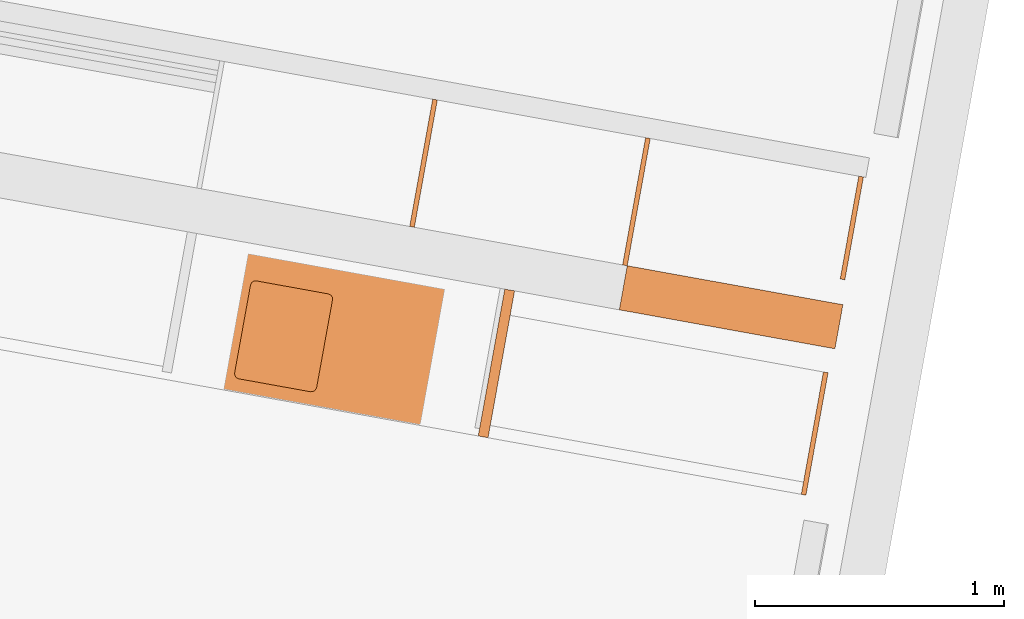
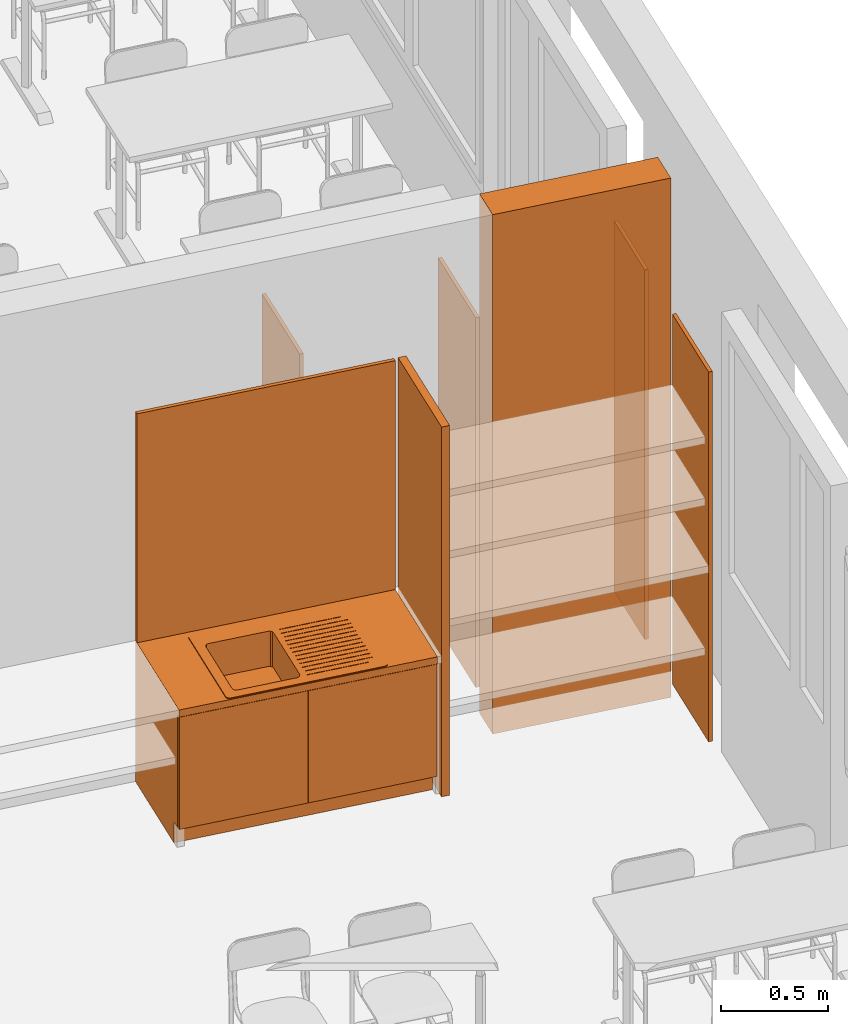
# One storey, part 45 of 79: 7 proxies.
"""IFC2X3 building model written with IfcOpenShell, lengths in metres."""

from ifc_helpers import new_model, entity, si_unit, converted_unit, derived_unit, money_unit, direction, frame, origin_with_axes, place, context, subcontext, project, spatial, polyline, outline, extrude, open_shell, faceted_brep, surface_model, source, transform, mapped, material, type_object, element, save


model = new_model("IFC2X3")

# Units and contexts
model_context = context("Model", 3, precision=1e-05, world=origin_with_axes(), true_north=direction((0.0, 1.0)))
body_context = subcontext(model_context, "Body", "Model", "MODEL_VIEW")
ifc_project = project(units=[si_unit("LENGTHUNIT", "METRE"), si_unit("AREAUNIT", "SQUARE_METRE"), si_unit("VOLUMEUNIT", "CUBIC_METRE"), converted_unit("PLANEANGLEUNIT", "DEGREE", entity("IfcPlaneAngleMeasure", 0.0174532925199), si_unit("PLANEANGLEUNIT", "RADIAN"), dimensions=[0, 0, 0, 0, 0, 0, 0]), money_unit("CHF"), converted_unit("TIMEUNIT", "Year", entity("IfcTimeMeasure", 31556926.0), si_unit("TIMEUNIT", "SECOND"), dimensions=[0, 0, 1, 0, 0, 0, 0]), si_unit("MASSUNIT", "GRAM", prefix="KILO"), si_unit("THERMODYNAMICTEMPERATUREUNIT", "DEGREE_CELSIUS"), si_unit("LUMINOUSINTENSITYUNIT", "LUMEN"), si_unit("ENERGYUNIT", "JOULE", prefix="MEGA"), derived_unit("THERMALCONDUCTANCEUNIT", [(si_unit("POWERUNIT", "WATT"), 1), (si_unit("LENGTHUNIT", "METRE"), -1), (si_unit("THERMODYNAMICTEMPERATUREUNIT", "KELVIN"), -1)]), derived_unit("SPECIFICHEATCAPACITYUNIT", [(si_unit("ENERGYUNIT", "JOULE"), 1), (si_unit("MASSUNIT", "GRAM", prefix="KILO"), -1), (si_unit("THERMODYNAMICTEMPERATUREUNIT", "KELVIN"), -1)]), derived_unit("MASSDENSITYUNIT", [(si_unit("MASSUNIT", "GRAM", prefix="KILO"), 1), (si_unit("VOLUMEUNIT", "CUBIC_METRE"), -1)])], contexts=[model_context])

# Site, building, storey
site_placement = place(None, frame((0.0, 0.0, 0.0), z_axis=(0.0, 0.0, 1.0), x_axis=(-0.177771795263, -0.984071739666, 0.0)))
site = spatial("IfcSite", under=ifc_project, at=site_placement, Name="Site", CompositionType="ELEMENT")
building_placement = place(site_placement, origin_with_axes())
building = spatial("IfcBuilding", under=site, at=building_placement, Name="Bâtiment", CompositionType="ELEMENT")
storey_placement = place(building_placement, origin_with_axes())
storey = spatial("IfcBuildingStorey", under=building, at=storey_placement, Name="RDC", CompositionType="ELEMENT", Elevation=0.0)

# Proxies
ifc_material_1 = material(Name="_panneau mélaminé")
building_element_proxy_type_1 = type_object("IfcBuildingElementProxyType", Name="_panneau mélaminé 40", PredefinedType="NOTDEFINED")
proxy_1_placement = place(storey_placement, frame((119.884841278, -149.826151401, 0.0), z_axis=(0.0, 0.0, 1.0), x_axis=(-1.0, 0.0, 0.0)))
element("IfcBuildingElementProxy", 1, at=proxy_1_placement, inside=storey, type_object=building_element_proxy_type_1, material=ifc_material_1, Name="cloison-fd-classe D", context=body_context, shape_type="SweptSolid", body=[
    extrude(outline(polyline([(0.0, -0.04), (0.600000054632, -0.04), (0.600000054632, 0.0), (0.0, 0.0), (0.0, -0.04)])), origin_with_axes(), (0.0, 0.0, 1.0), 2.1),
])
building_element_proxy_type_2 = type_object("IfcBuildingElementProxyType", Name="_panneau mélaminé 19", PredefinedType="NOTDEFINED")
proxy_2_placement = place(storey_placement, frame((119.10484124, -149.367651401, 0.0), z_axis=(0.0, 0.0, 1.0), x_axis=(-1.0, 0.0, 0.0)))
element("IfcBuildingElementProxy", 2, at=proxy_2_placement, inside=storey, type_object=building_element_proxy_type_2, material=ifc_material_1, Name="cloison pl-classe", context=body_context, shape_type="SweptSolid", body=[
    extrude(outline(polyline([(0.0, -0.0095), (0.520000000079, -0.0095), (0.520000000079, 0.0095), (0.0, 0.0095), (0.0, -0.0095)])), origin_with_axes(), (0.0, 0.0, 1.0), 2.1),
])
proxy_3_placement = place(storey_placement, frame((119.004841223, -148.506151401, 0.0), z_axis=(0.0, 0.0, 1.0), x_axis=(-1.0, 0.0, 0.0)))
element("IfcBuildingElementProxy", 3, at=proxy_3_placement, inside=storey, type_object=building_element_proxy_type_2, material=ifc_material_1, Name="cloison pl-classe", context=body_context, shape_type="SweptSolid", body=[
    extrude(outline(polyline([(0.0, -0.019), (0.419999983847, -0.019), (0.419999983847, 0.0), (0.0, 0.0), (0.0, -0.019)])), origin_with_axes(), (0.0, 0.0, 1.0), 2.1),
])
proxy_4_placement = place(storey_placement, frame((119.884841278, -148.506151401, 0.0), z_axis=(0.0, 0.0, 1.0), x_axis=(-1.0, 0.0, 0.0)))
element("IfcBuildingElementProxy", 4, at=proxy_4_placement, inside=storey, type_object=building_element_proxy_type_2, material=ifc_material_1, Name="cloison-fd-classe D", context=body_context, shape_type="SweptSolid", body=[
    extrude(outline(polyline([(0.0, -0.019), (0.500000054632, -0.019), (0.500000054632, 0.0), (0.0, 0.0), (0.0, -0.019)])), origin_with_axes(), (0.0, 0.0, 1.0), 2.1),
])
proxy_5_placement = place(storey_placement, frame((119.10484124, -150.237651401, 0.0), z_axis=(0.0, 0.0, 1.0), x_axis=(-1.0, 0.0, 0.0)))
element("IfcBuildingElementProxy", 5, at=proxy_5_placement, inside=storey, type_object=building_element_proxy_type_2, material=ifc_material_1, Name="cloison pl-classe", context=body_context, shape_type="SweptSolid", body=[
    extrude(outline(polyline([(0.0, -0.0095), (0.520000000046, -0.0095), (0.520000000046, 0.0095), (0.0, 0.0095), (0.0, -0.0095)])), origin_with_axes(), (0.0, 0.0, 1.0), 2.1),
])
ifc_material_2 = material(Name="_BA banché RAL9007")
building_element_proxy_type_3 = type_object("IfcBuildingElementProxyType", Name="_M ext 18 +10 gris 280", PredefinedType="NOTDEFINED")
proxy_6_placement = place(storey_placement, frame((119.284841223, -149.358151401, -0.15), z_axis=(0.0, 0.0, 1.0), x_axis=(0.0, 1.0, 0.0)))
element("IfcBuildingElementProxy", 6, at=proxy_6_placement, inside=storey, type_object=building_element_proxy_type_3, material=ifc_material_2, Name="M retour_isol", context=body_context, shape_type="SweptSolid", body=[
    extrude(outline(polyline([(0.0, 0.0), (0.881000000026, 0.0), (0.88100000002, 0.18), (0.0, 0.18), (0.0, 0.0)])), origin_with_axes(), (0.0, 0.0, 1.0), 2.95),
])
ifc_material_3 = material(Name="Matériau de construction IFC")
building_element_proxy_type_4 = type_object("IfcBuildingElementProxyType", Name="Elément simple avec deux portes 21", PredefinedType="NOTDEFINED")
shared_shape = source(origin_with_axes(), body_context, "Body", "SurfaceModel", [
    surface_model("IfcShellBasedSurfaceModel", [(0.5, 0.600000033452, 0.733), (0.496505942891, 0.600000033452, 0.733460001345), (0.496505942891, 0.620000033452, 0.733460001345), (0.5, 0.620000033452, 0.733), (0.49325, 0.600000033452, 0.734808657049), (0.49325, 0.620000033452, 0.734808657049), (0.503494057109, 0.600000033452, 0.733460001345), (0.503494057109, 0.620000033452, 0.733460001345), (0.490454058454, 0.600000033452, 0.736954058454), (0.490454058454, 0.620000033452, 0.736954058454), (0.50675, 0.600000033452, 0.734808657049), (0.50675, 0.620000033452, 0.734808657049), (0.488308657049, 0.600000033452, 0.73975), (0.488308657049, 0.620000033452, 0.73975), (0.509545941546, 0.600000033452, 0.736954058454), (0.509545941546, 0.620000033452, 0.736954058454), (0.486960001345, 0.600000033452, 0.743005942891), (0.486960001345, 0.620000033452, 0.743005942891), (0.511691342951, 0.600000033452, 0.73975), (0.511691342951, 0.620000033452, 0.73975), (0.4865, 0.600000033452, 0.7465), (0.4865, 0.620000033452, 0.7465), (0.513039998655, 0.600000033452, 0.743005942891), (0.513039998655, 0.620000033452, 0.743005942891), (0.486960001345, 0.600000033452, 0.749994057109), (0.486960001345, 0.620000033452, 0.749994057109), (0.5135, 0.600000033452, 0.7465), (0.5135, 0.620000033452, 0.7465), (0.488308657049, 0.600000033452, 0.75325), (0.488308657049, 0.620000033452, 0.75325), (0.513039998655, 0.600000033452, 0.749994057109), (0.513039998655, 0.620000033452, 0.749994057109), (0.490454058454, 0.600000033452, 0.756045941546), (0.490454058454, 0.620000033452, 0.756045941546), (0.511691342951, 0.600000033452, 0.75325), (0.511691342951, 0.620000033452, 0.75325), (0.49325, 0.600000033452, 0.758191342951), (0.49325, 0.620000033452, 0.758191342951), (0.509545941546, 0.600000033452, 0.756045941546), (0.509545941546, 0.620000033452, 0.756045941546), (0.496505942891, 0.600000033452, 0.759539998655), (0.496505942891, 0.620000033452, 0.759539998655), (0.50675, 0.600000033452, 0.758191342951), (0.50675, 0.620000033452, 0.758191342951), (0.5, 0.600000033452, 0.76), (0.5, 0.620000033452, 0.76), (0.503494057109, 0.600000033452, 0.759539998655), (0.503494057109, 0.620000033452, 0.759539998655)], [open_shell([[[0, 1, 2, 3]], [[1, 4, 5, 2]], [[6, 0, 3, 7]], [[4, 8, 9, 5]], [[10, 6, 7, 11]], [[8, 12, 13, 9]], [[14, 10, 11, 15]], [[12, 16, 17, 13]], [[18, 14, 15, 19]], [[16, 20, 21, 17]], [[22, 18, 19, 23]], [[20, 24, 25, 21]], [[26, 22, 23, 27]], [[24, 28, 29, 25]], [[30, 26, 27, 31]], [[28, 32, 33, 29]], [[34, 30, 31, 35]], [[32, 36, 37, 33]], [[38, 34, 35, 39]], [[36, 40, 41, 37]], [[42, 38, 39, 43]], [[40, 44, 45, 41]], [[46, 42, 43, 47]], [[44, 46, 47, 45]]])]),
    surface_model("IfcShellBasedSurfaceModel", [(0.7, 0.600000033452, 0.733), (0.696505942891, 0.600000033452, 0.733460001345), (0.696505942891, 0.620000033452, 0.733460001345), (0.7, 0.620000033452, 0.733), (0.69325, 0.600000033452, 0.734808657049), (0.69325, 0.620000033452, 0.734808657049), (0.703494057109, 0.600000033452, 0.733460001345), (0.703494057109, 0.620000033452, 0.733460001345), (0.690454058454, 0.600000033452, 0.736954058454), (0.690454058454, 0.620000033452, 0.736954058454), (0.70675, 0.600000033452, 0.734808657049), (0.70675, 0.620000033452, 0.734808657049), (0.688308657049, 0.600000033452, 0.73975), (0.688308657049, 0.620000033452, 0.73975), (0.709545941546, 0.600000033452, 0.736954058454), (0.709545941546, 0.620000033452, 0.736954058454), (0.686960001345, 0.600000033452, 0.743005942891), (0.686960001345, 0.620000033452, 0.743005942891), (0.711691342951, 0.600000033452, 0.73975), (0.711691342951, 0.620000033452, 0.73975), (0.6865, 0.600000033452, 0.7465), (0.6865, 0.620000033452, 0.7465), (0.713039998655, 0.600000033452, 0.743005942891), (0.713039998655, 0.620000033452, 0.743005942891), (0.686960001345, 0.600000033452, 0.749994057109), (0.686960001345, 0.620000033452, 0.749994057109), (0.7135, 0.600000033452, 0.7465), (0.7135, 0.620000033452, 0.7465), (0.688308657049, 0.600000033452, 0.75325), (0.688308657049, 0.620000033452, 0.75325), (0.713039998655, 0.600000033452, 0.749994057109), (0.713039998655, 0.620000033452, 0.749994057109), (0.690454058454, 0.600000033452, 0.756045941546), (0.690454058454, 0.620000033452, 0.756045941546), (0.711691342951, 0.600000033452, 0.75325), (0.711691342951, 0.620000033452, 0.75325), (0.69325, 0.600000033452, 0.758191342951), (0.69325, 0.620000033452, 0.758191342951), (0.709545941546, 0.600000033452, 0.756045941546), (0.709545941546, 0.620000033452, 0.756045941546), (0.696505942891, 0.600000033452, 0.759539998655), (0.696505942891, 0.620000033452, 0.759539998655), (0.70675, 0.600000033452, 0.758191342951), (0.70675, 0.620000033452, 0.758191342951), (0.7, 0.600000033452, 0.76), (0.7, 0.620000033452, 0.76), (0.703494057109, 0.600000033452, 0.759539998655), (0.703494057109, 0.620000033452, 0.759539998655)], [open_shell([[[0, 1, 2, 3]], [[1, 4, 5, 2]], [[6, 0, 3, 7]], [[4, 8, 9, 5]], [[10, 6, 7, 11]], [[8, 12, 13, 9]], [[14, 10, 11, 15]], [[12, 16, 17, 13]], [[18, 14, 15, 19]], [[16, 20, 21, 17]], [[22, 18, 19, 23]], [[20, 24, 25, 21]], [[26, 22, 23, 27]], [[24, 28, 29, 25]], [[30, 26, 27, 31]], [[28, 32, 33, 29]], [[34, 30, 31, 35]], [[32, 36, 37, 33]], [[38, 34, 35, 39]], [[36, 40, 41, 37]], [[42, 38, 39, 43]], [[40, 44, 45, 41]], [[46, 42, 43, 47]], [[44, 46, 47, 45]]])]),
    surface_model("IfcShellBasedSurfaceModel", [(0.6, 0.600000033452, 0.579), (0.594564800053, 0.600000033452, 0.579715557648), (0.594564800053, 0.620000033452, 0.579715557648), (0.6, 0.620000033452, 0.579), (0.5895, 0.600000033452, 0.581813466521), (0.5895, 0.620000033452, 0.581813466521), (0.605435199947, 0.600000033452, 0.579715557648), (0.605435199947, 0.620000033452, 0.579715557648), (0.585150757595, 0.600000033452, 0.585150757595), (0.585150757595, 0.620000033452, 0.585150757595), (0.6105, 0.600000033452, 0.581813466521), (0.6105, 0.620000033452, 0.581813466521), (0.581813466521, 0.600000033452, 0.5895), (0.581813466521, 0.620000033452, 0.5895), (0.614849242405, 0.600000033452, 0.585150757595), (0.614849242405, 0.620000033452, 0.585150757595), (0.579715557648, 0.600000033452, 0.594564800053), (0.579715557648, 0.620000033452, 0.594564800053), (0.618186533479, 0.600000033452, 0.5895), (0.618186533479, 0.620000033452, 0.5895), (0.579, 0.600000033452, 0.6), (0.579, 0.620000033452, 0.6), (0.620284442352, 0.600000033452, 0.594564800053), (0.620284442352, 0.620000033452, 0.594564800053), (0.579715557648, 0.600000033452, 0.605435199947), (0.579715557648, 0.620000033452, 0.605435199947), (0.621, 0.600000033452, 0.6), (0.621, 0.620000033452, 0.6), (0.581813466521, 0.600000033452, 0.6105), (0.581813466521, 0.620000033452, 0.6105), (0.620284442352, 0.600000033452, 0.605435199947), (0.620284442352, 0.620000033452, 0.605435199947), (0.585150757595, 0.600000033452, 0.614849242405), (0.585150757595, 0.620000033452, 0.614849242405), (0.618186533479, 0.600000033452, 0.6105), (0.618186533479, 0.620000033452, 0.6105), (0.5895, 0.600000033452, 0.618186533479), (0.5895, 0.620000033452, 0.618186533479), (0.614849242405, 0.600000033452, 0.614849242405), (0.614849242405, 0.620000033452, 0.614849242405), (0.594564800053, 0.600000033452, 0.620284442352), (0.594564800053, 0.620000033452, 0.620284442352), (0.6105, 0.600000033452, 0.618186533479), (0.6105, 0.620000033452, 0.618186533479), (0.6, 0.600000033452, 0.621), (0.6, 0.620000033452, 0.621), (0.605435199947, 0.600000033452, 0.620284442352), (0.605435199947, 0.620000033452, 0.620284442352)], [open_shell([[[0, 1, 2, 3]], [[1, 4, 5, 2]], [[6, 0, 3, 7]], [[4, 8, 9, 5]], [[10, 6, 7, 11]], [[8, 12, 13, 9]], [[14, 10, 11, 15]], [[12, 16, 17, 13]], [[18, 14, 15, 19]], [[16, 20, 21, 17]], [[22, 18, 19, 23]], [[20, 24, 25, 21]], [[26, 22, 23, 27]], [[24, 28, 29, 25]], [[30, 26, 27, 31]], [[28, 32, 33, 29]], [[34, 30, 31, 35]], [[32, 36, 37, 33]], [[38, 34, 35, 39]], [[36, 40, 41, 37]], [[42, 38, 39, 43]], [[40, 44, 45, 41]], [[46, 42, 43, 47]], [[44, 46, 47, 45]]])]),
    faceted_brep([(0.0, 0.07, 0.0), (1.278, 0.07, 0.0), (1.278, 0.07, 0.12), (0.0, 0.07, 0.12), (0.0, 0.600000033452, 0.0), (1.278, 0.600000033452, 0.0), (1.278, 0.600000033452, 0.12), (0.0, 0.600000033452, 0.12)], [[[0, 1, 2, 3]], [[0, 4, 5, 1]], [[1, 5, 6, 2]], [[3, 2, 6, 7]], [[4, 0, 3, 7]], [[5, 4, 7, 6]]]),
    faceted_brep([(0.0, 0.02, 0.12), (0.02, 0.02, 0.12), (0.02, 0.02, 0.14), (0.0, 0.02, 0.14), (0.0, 0.600000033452, 0.12), (0.02, 0.600000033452, 0.12), (1.258, 0.600000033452, 0.12), (1.278, 0.600000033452, 0.12), (1.278, 0.02, 0.12), (1.258, 0.02, 0.12), (1.258, 0.02, 0.14), (1.278, 0.02, 0.14), (1.278, 0.600000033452, 0.14), (1.258, 0.600000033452, 0.14), (0.02, 0.600000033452, 0.14), (0.0, 0.600000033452, 0.14)], [[[0, 1, 2, 3]], [[0, 4, 5, 6, 7, 8, 9, 1]], [[1, 9, 10, 2]], [[3, 2, 10, 11, 12, 13, 14, 15]], [[4, 0, 3, 15]], [[5, 4, 15, 14]], [[6, 5, 14, 13]], [[7, 6, 13, 12]], [[8, 7, 12, 11]], [[9, 8, 11, 10]]]),
    faceted_brep([(0.0, 0.02, 0.14), (0.02, 0.02, 0.14), (0.02, 0.02, 0.76), (0.0, 0.02, 0.76), (0.0, 0.600000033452, 0.14), (1.278, 0.600000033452, 0.14), (1.278, 0.02, 0.14), (1.258, 0.02, 0.14), (1.258, 0.580000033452, 0.14), (0.02, 0.580000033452, 0.14), (0.02, 0.580000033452, 0.76), (1.258, 0.580000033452, 0.76), (1.258, 0.02, 0.76), (1.278, 0.02, 0.76), (1.278, 0.600000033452, 0.76), (0.0, 0.600000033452, 0.76)], [[[0, 1, 2, 3]], [[0, 4, 5, 6, 7, 8, 9, 1]], [[1, 9, 10, 2]], [[3, 2, 10, 11, 12, 13, 14, 15]], [[4, 0, 3, 15]], [[5, 4, 15, 14]], [[6, 5, 14, 13]], [[7, 6, 13, 12]], [[8, 7, 12, 11]], [[9, 8, 11, 10]]]),
    faceted_brep([(1.258, 0.02, 0.41), (1.258, 0.580000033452, 0.41), (1.258, 0.580000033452, 0.43), (1.258, 0.02, 0.43), (0.02, 0.02, 0.41), (0.02, 0.580000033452, 0.41), (0.02, 0.580000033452, 0.43), (0.02, 0.02, 0.43)], [[[0, 1, 2, 3]], [[0, 4, 5, 1]], [[1, 5, 6, 2]], [[3, 2, 6, 7]], [[4, 0, 3, 7]], [[5, 4, 7, 6]]]),
    surface_model("IfcShellBasedSurfaceModel", [(0.309, 0.0550000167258, 0.605), (0.604, 0.0550000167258, 0.605), (0.604, 0.0550000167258, 0.8), (0.309, 0.0550000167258, 0.8), (0.299, 0.0576795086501, 0.605), (0.291679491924, 0.0650000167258, 0.605), (0.289, 0.0750000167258, 0.605), (0.289, 0.435000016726, 0.605), (0.291679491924, 0.445000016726, 0.605), (0.299, 0.452320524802, 0.605), (0.309, 0.455000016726, 0.605), (0.604, 0.455000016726, 0.605), (0.614, 0.452320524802, 0.605), (0.621320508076, 0.445000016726, 0.605), (0.624, 0.435000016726, 0.605), (0.624, 0.0750000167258, 0.605), (0.618142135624, 0.0608578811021, 0.605), (0.618142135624, 0.0608578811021, 0.8), (0.299, 0.0576795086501, 0.8), (0.291679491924, 0.0650000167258, 0.8), (0.289, 0.0750000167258, 0.8), (0.289, 0.435000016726, 0.8), (0.291679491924, 0.445000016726, 0.8), (0.299, 0.452320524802, 0.8), (0.309, 0.455000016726, 0.8), (0.604, 0.455000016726, 0.8), (0.614, 0.452320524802, 0.8), (0.621320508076, 0.445000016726, 0.8), (0.624, 0.435000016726, 0.8), (0.624, 0.0750000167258, 0.8)], [open_shell([[[0, 1, 2, 3]], [[0, 4, 5, 6, 7, 8, 9, 10, 11, 12, 13, 14, 15, 16, 1]], [[1, 16, 17, 2]], [[4, 0, 3, 18]], [[5, 4, 18, 19]], [[6, 5, 19, 20]], [[7, 6, 20, 21]], [[8, 7, 21, 22]], [[9, 8, 22, 23]], [[10, 9, 23, 24]], [[11, 10, 24, 25]], [[12, 11, 25, 26]], [[13, 12, 26, 27]], [[14, 13, 27, 28]], [[15, 14, 28, 29]], [[16, 15, 29, 17]]])]),
    faceted_brep([(0.259, 0.00500001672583, 0.8), (1.019, 0.00500001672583, 0.8), (1.019, 0.00500001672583, 0.805), (0.259, 0.00500001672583, 0.805), (0.249, 0.00767950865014, 0.8), (0.241679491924, 0.0150000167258, 0.8), (0.239, 0.0250000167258, 0.8), (0.239, 0.535000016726, 0.8), (0.241679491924, 0.545000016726, 0.8), (0.249, 0.552320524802, 0.8), (0.259, 0.555000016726, 0.8), (1.019, 0.555000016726, 0.8), (1.029, 0.552320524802, 0.8), (1.03632050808, 0.545000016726, 0.8), (1.039, 0.535000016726, 0.8), (1.039, 0.0250000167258, 0.8), (1.03314213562, 0.0108578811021, 0.8), (0.309, 0.0550000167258, 0.8), (0.604, 0.0550000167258, 0.8), (0.618142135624, 0.0608578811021, 0.8), (0.624, 0.0750000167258, 0.8), (0.624, 0.435000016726, 0.8), (0.621320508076, 0.445000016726, 0.8), (0.614, 0.452320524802, 0.8), (0.604, 0.455000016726, 0.8), (0.309, 0.455000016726, 0.8), (0.299, 0.452320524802, 0.8), (0.291679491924, 0.445000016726, 0.8), (0.289, 0.435000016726, 0.8), (0.289, 0.0750000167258, 0.8), (0.291679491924, 0.0650000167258, 0.8), (0.299, 0.0576795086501, 0.8), (1.03314213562, 0.0108578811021, 0.805), (1.039, 0.0250000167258, 0.805), (1.039, 0.535000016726, 0.805), (1.03632050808, 0.545000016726, 0.805), (1.029, 0.552320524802, 0.805), (1.019, 0.555000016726, 0.805), (0.259, 0.555000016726, 0.805), (0.249, 0.552320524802, 0.805), (0.241679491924, 0.545000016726, 0.805), (0.239, 0.535000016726, 0.805), (0.239, 0.0250000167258, 0.805), (0.241679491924, 0.0150000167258, 0.805), (0.249, 0.00767950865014, 0.805), (0.309, 0.0550000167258, 0.805), (0.299, 0.0576795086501, 0.805), (0.291679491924, 0.0650000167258, 0.805), (0.289, 0.0750000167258, 0.805), (0.289, 0.435000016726, 0.805), (0.291679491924, 0.445000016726, 0.805), (0.299, 0.452320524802, 0.805), (0.309, 0.455000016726, 0.805), (0.604, 0.455000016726, 0.805), (0.614, 0.452320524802, 0.805), (0.621320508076, 0.445000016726, 0.805), (0.624, 0.435000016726, 0.805), (0.624, 0.0750000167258, 0.805), (0.618142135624, 0.0608578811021, 0.805), (0.604, 0.0550000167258, 0.805)], [[[0, 1, 2, 3]], [[0, 4, 5, 6, 7, 8, 9, 10, 11, 12, 13, 14, 15, 16, 1], [17, 18, 19, 20, 21, 22, 23, 24, 25, 26, 27, 28, 29, 30, 31]], [[1, 16, 32, 2]], [[3, 2, 32, 33, 34, 35, 36, 37, 38, 39, 40, 41, 42, 43, 44], [45, 46, 47, 48, 49, 50, 51, 52, 53, 54, 55, 56, 57, 58, 59]], [[4, 0, 3, 44]], [[5, 4, 44, 43]], [[6, 5, 43, 42]], [[7, 6, 42, 41]], [[8, 7, 41, 40]], [[9, 8, 40, 39]], [[10, 9, 39, 38]], [[11, 10, 38, 37]], [[12, 11, 37, 36]], [[13, 12, 36, 35]], [[14, 13, 35, 34]], [[15, 14, 34, 33]], [[16, 15, 33, 32]], [[18, 17, 45, 59]], [[19, 18, 59, 58]], [[20, 19, 58, 57]], [[21, 20, 57, 56]], [[22, 21, 56, 55]], [[23, 22, 55, 54]], [[24, 23, 54, 53]], [[25, 24, 53, 52]], [[26, 25, 52, 51]], [[27, 26, 51, 50]], [[28, 27, 50, 49]], [[29, 28, 49, 48]], [[30, 29, 48, 47]], [[31, 30, 47, 46]], [[17, 31, 46, 45]]]),
    faceted_brep([(0.654, 0.0600000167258, 0.805), (0.959, 0.0600000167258, 0.805), (0.959, 0.0600000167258, 0.807), (0.654, 0.0600000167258, 0.807), (0.654, 0.0650000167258, 0.805), (0.959, 0.0650000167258, 0.805), (0.959, 0.0650000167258, 0.807), (0.654, 0.0650000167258, 0.807)], [[[0, 1, 2, 3]], [[0, 4, 5, 1]], [[1, 5, 6, 2]], [[3, 2, 6, 7]], [[4, 0, 3, 7]], [[5, 4, 7, 6]]]),
    faceted_brep([(0.654, 0.0925000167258, 0.805), (0.989, 0.0925000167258, 0.805), (0.989, 0.0925000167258, 0.807), (0.654, 0.0925000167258, 0.807), (0.654, 0.0975000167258, 0.805), (0.989, 0.0975000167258, 0.805), (0.989, 0.0975000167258, 0.807), (0.654, 0.0975000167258, 0.807)], [[[0, 1, 2, 3]], [[0, 4, 5, 1]], [[1, 5, 6, 2]], [[3, 2, 6, 7]], [[4, 0, 3, 7]], [[5, 4, 7, 6]]]),
    faceted_brep([(0.654, 0.125000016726, 0.805), (0.989, 0.125000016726, 0.805), (0.989, 0.125000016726, 0.807), (0.654, 0.125000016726, 0.807), (0.654, 0.130000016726, 0.805), (0.989, 0.130000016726, 0.805), (0.989, 0.130000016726, 0.807), (0.654, 0.130000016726, 0.807)], [[[0, 1, 2, 3]], [[0, 4, 5, 1]], [[1, 5, 6, 2]], [[3, 2, 6, 7]], [[4, 0, 3, 7]], [[5, 4, 7, 6]]]),
    faceted_brep([(0.654, 0.157500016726, 0.805), (0.989, 0.157500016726, 0.805), (0.989, 0.157500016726, 0.807), (0.654, 0.157500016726, 0.807), (0.654, 0.162500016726, 0.805), (0.989, 0.162500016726, 0.805), (0.989, 0.162500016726, 0.807), (0.654, 0.162500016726, 0.807)], [[[0, 1, 2, 3]], [[0, 4, 5, 1]], [[1, 5, 6, 2]], [[3, 2, 6, 7]], [[4, 0, 3, 7]], [[5, 4, 7, 6]]]),
    faceted_brep([(0.654, 0.190000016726, 0.805), (0.989, 0.190000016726, 0.805), (0.989, 0.190000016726, 0.807), (0.654, 0.190000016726, 0.807), (0.654, 0.195000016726, 0.805), (0.989, 0.195000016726, 0.805), (0.989, 0.195000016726, 0.807), (0.654, 0.195000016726, 0.807)], [[[0, 1, 2, 3]], [[0, 4, 5, 1]], [[1, 5, 6, 2]], [[3, 2, 6, 7]], [[4, 0, 3, 7]], [[5, 4, 7, 6]]]),
    faceted_brep([(0.654, 0.222500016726, 0.805), (0.989, 0.222500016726, 0.805), (0.989, 0.222500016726, 0.807), (0.654, 0.222500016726, 0.807), (0.654, 0.227500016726, 0.805), (0.989, 0.227500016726, 0.805), (0.989, 0.227500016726, 0.807), (0.654, 0.227500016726, 0.807)], [[[0, 1, 2, 3]], [[0, 4, 5, 1]], [[1, 5, 6, 2]], [[3, 2, 6, 7]], [[4, 0, 3, 7]], [[5, 4, 7, 6]]]),
    faceted_brep([(0.654, 0.255000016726, 0.805), (0.989, 0.255000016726, 0.805), (0.989, 0.255000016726, 0.807), (0.654, 0.255000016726, 0.807), (0.654, 0.260000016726, 0.805), (0.989, 0.260000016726, 0.805), (0.989, 0.260000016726, 0.807), (0.654, 0.260000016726, 0.807)], [[[0, 1, 2, 3]], [[0, 4, 5, 1]], [[1, 5, 6, 2]], [[3, 2, 6, 7]], [[4, 0, 3, 7]], [[5, 4, 7, 6]]]),
    faceted_brep([(0.654, 0.287500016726, 0.805), (0.989, 0.287500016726, 0.805), (0.989, 0.287500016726, 0.807), (0.654, 0.287500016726, 0.807), (0.654, 0.292500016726, 0.805), (0.989, 0.292500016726, 0.805), (0.989, 0.292500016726, 0.807), (0.654, 0.292500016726, 0.807)], [[[0, 1, 2, 3]], [[0, 4, 5, 1]], [[1, 5, 6, 2]], [[3, 2, 6, 7]], [[4, 0, 3, 7]], [[5, 4, 7, 6]]]),
    faceted_brep([(0.654, 0.320000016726, 0.805), (0.989, 0.320000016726, 0.805), (0.989, 0.320000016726, 0.807), (0.654, 0.320000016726, 0.807), (0.654, 0.325000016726, 0.805), (0.989, 0.325000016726, 0.805), (0.989, 0.325000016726, 0.807), (0.654, 0.325000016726, 0.807)], [[[0, 1, 2, 3]], [[0, 4, 5, 1]], [[1, 5, 6, 2]], [[3, 2, 6, 7]], [[4, 0, 3, 7]], [[5, 4, 7, 6]]]),
    faceted_brep([(0.654, 0.352500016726, 0.805), (0.989, 0.352500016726, 0.805), (0.989, 0.352500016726, 0.807), (0.654, 0.352500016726, 0.807), (0.654, 0.357500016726, 0.805), (0.989, 0.357500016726, 0.805), (0.989, 0.357500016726, 0.807), (0.654, 0.357500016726, 0.807)], [[[0, 1, 2, 3]], [[0, 4, 5, 1]], [[1, 5, 6, 2]], [[3, 2, 6, 7]], [[4, 0, 3, 7]], [[5, 4, 7, 6]]]),
    faceted_brep([(0.654, 0.385000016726, 0.805), (0.989, 0.385000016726, 0.805), (0.989, 0.385000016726, 0.807), (0.654, 0.385000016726, 0.807), (0.654, 0.390000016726, 0.805), (0.989, 0.390000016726, 0.805), (0.989, 0.390000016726, 0.807), (0.654, 0.390000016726, 0.807)], [[[0, 1, 2, 3]], [[0, 4, 5, 1]], [[1, 5, 6, 2]], [[3, 2, 6, 7]], [[4, 0, 3, 7]], [[5, 4, 7, 6]]]),
    faceted_brep([(0.654, 0.417500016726, 0.805), (0.989, 0.417500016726, 0.805), (0.989, 0.417500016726, 0.807), (0.654, 0.417500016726, 0.807), (0.654, 0.422500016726, 0.805), (0.989, 0.422500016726, 0.805), (0.989, 0.422500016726, 0.807), (0.654, 0.422500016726, 0.807)], [[[0, 1, 2, 3]], [[0, 4, 5, 1]], [[1, 5, 6, 2]], [[3, 2, 6, 7]], [[4, 0, 3, 7]], [[5, 4, 7, 6]]]),
    faceted_brep([(0.654, 0.450000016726, 0.805), (0.959, 0.450000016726, 0.805), (0.959, 0.450000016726, 0.807), (0.654, 0.450000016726, 0.807), (0.654, 0.455000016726, 0.805), (0.959, 0.455000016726, 0.805), (0.959, 0.455000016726, 0.807), (0.654, 0.455000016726, 0.807)], [[[0, 1, 2, 3]], [[0, 4, 5, 1]], [[1, 5, 6, 2]], [[3, 2, 6, 7]], [[4, 0, 3, 7]], [[5, 4, 7, 6]]]),
    faceted_brep([(0.0, 0.0, 0.76), (1.278, 0.0, 0.76), (1.278, 0.0, 0.8), (0.0, 0.0, 0.8), (0.0, 0.600000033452, 0.76), (1.278, 0.600000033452, 0.76), (0.264, 0.0500000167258, 0.76), (1.014, 0.0500000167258, 0.76), (1.014, 0.535000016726, 0.76), (0.264, 0.535000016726, 0.76), (1.278, 0.600000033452, 0.8), (0.0, 0.600000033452, 0.8), (0.264, 0.0500000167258, 0.8), (0.264, 0.535000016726, 0.8), (1.014, 0.535000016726, 0.8), (1.014, 0.0500000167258, 0.8)], [[[0, 1, 2, 3]], [[0, 4, 5, 1], [6, 7, 8, 9]], [[1, 5, 10, 2]], [[3, 2, 10, 11], [12, 13, 14, 15]], [[4, 0, 3, 11]], [[5, 4, 11, 10]], [[7, 6, 12, 15]], [[8, 7, 15, 14]], [[9, 8, 14, 13]], [[6, 9, 13, 12]]]),
    faceted_brep([(0.0, 0.580000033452, 0.8), (1.278, 0.580000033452, 0.8), (1.278, 0.580000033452, 2.1), (0.0, 0.580000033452, 2.1), (0.0, 0.600000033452, 0.8), (1.278, 0.600000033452, 0.8), (1.278, 0.600000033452, 2.1), (0.0, 0.600000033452, 2.1)], [[[0, 1, 2, 3]], [[0, 4, 5, 1]], [[1, 5, 6, 2]], [[3, 2, 6, 7]], [[4, 0, 3, 7]], [[5, 4, 7, 6]]]),
    faceted_brep([(0.0015, 0.02, 0.1215), (0.6375, 0.02, 0.1215), (0.6375, 0.0, 0.1215), (0.0015, 0.0, 0.1215), (0.0015, 0.02, 0.7585), (0.6375, 0.02, 0.7585), (0.6375, 0.0, 0.7585), (0.0015, 0.0, 0.7585)], [[[0, 1, 2, 3]], [[0, 4, 5, 1]], [[1, 5, 6, 2]], [[3, 2, 6, 7]], [[4, 0, 3, 7]], [[5, 4, 7, 6]]]),
    faceted_brep([(1.2765, 0.02, 0.1215), (1.2765, 0.0, 0.1215), (0.6405, 0.0, 0.1215), (0.6405, 0.02, 0.1215), (1.2765, 0.02, 0.7585), (1.2765, 0.0, 0.7585), (0.6405, 0.0, 0.7585), (0.6405, 0.02, 0.7585)], [[[0, 1, 2, 3]], [[4, 5, 1, 0]], [[1, 5, 6, 2]], [[3, 2, 6, 7]], [[0, 3, 7, 4]], [[7, 6, 5, 4]]]),
])
proxy_7_placement = place(storey_placement, frame((119.88484124, -151.124151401, 0.0), z_axis=(0.0, 0.0, 1.0), x_axis=(0.0, 1.0, 0.0)))
element("IfcBuildingElementProxy", 7, at=proxy_7_placement, inside=storey, type_object=building_element_proxy_type_4, material=ifc_material_3, Name="evier-classe", context=body_context, shape_type="MappedRepresentation", body=[
    mapped(shared_shape, transform((0.0, 0.0, 0.0))),
])

save(model, "model.ifc")
